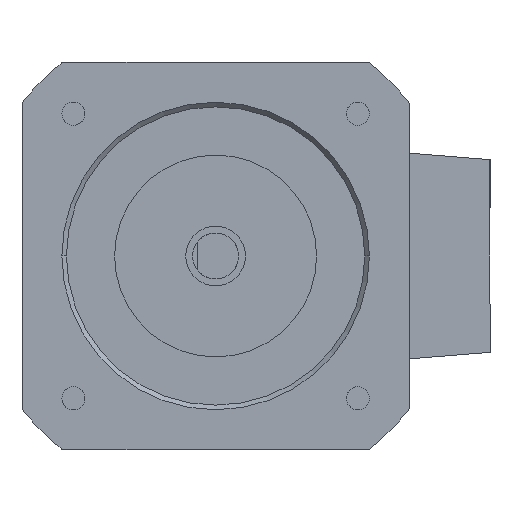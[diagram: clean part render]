
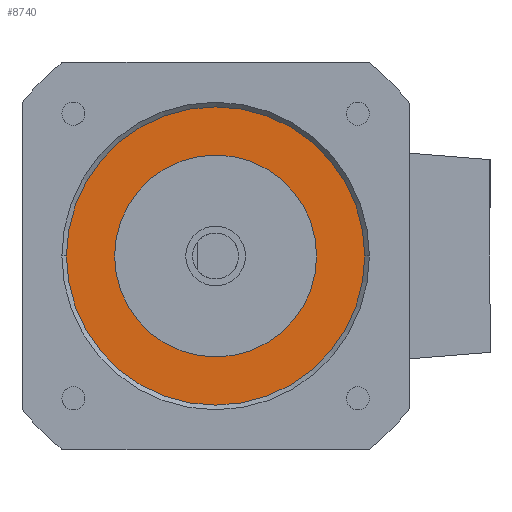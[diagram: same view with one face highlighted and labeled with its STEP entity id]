
A CAD part, front view. The second image highlights one B-rep face of the part: STEP entity #8740.
In plain terms, the highlighted planar face has unit normal (0, -1, 0).
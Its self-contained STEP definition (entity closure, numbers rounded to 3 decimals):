
#280 = EDGE_CURVE ( 'NONE', #3485, #9376, #5855, .T. ) ;
#858 = DIRECTION ( 'NONE',  ( 0., 0., -1. ) ) ;
#1253 = CARTESIAN_POINT ( 'NONE',  ( 0., 2., -11. ) ) ;
#1426 = CARTESIAN_POINT ( 'NONE',  ( 0., 2., 0. ) ) ;
#1916 = EDGE_LOOP ( 'NONE', ( #3754, #5186 ) ) ;
#2216 = CARTESIAN_POINT ( 'NONE',  ( 0., 2., 0. ) ) ;
#2993 = CIRCLE ( 'NONE', #7917, 11. ) ;
#3236 = VERTEX_POINT ( 'NONE', #10629 ) ;
#3485 = VERTEX_POINT ( 'NONE', #6726 ) ;
#3754 = ORIENTED_EDGE ( 'NONE', *, *, #280, .T. ) ;
#4136 = DIRECTION ( 'NONE',  ( 0., 0., -1. ) ) ;
#5186 = ORIENTED_EDGE ( 'NONE', *, *, #12446, .T. ) ;
#5203 = CARTESIAN_POINT ( 'NONE',  ( 0., 2., 0. ) ) ;
#5304 = DIRECTION ( 'NONE',  ( 0., 0., -1. ) ) ;
#5492 = DIRECTION ( 'NONE',  ( 0., -1., 0. ) ) ;
#5855 = CIRCLE ( 'NONE', #9875, 16.25 ) ;
#5917 = CIRCLE ( 'NONE', #9939, 11. ) ;
#6726 = CARTESIAN_POINT ( 'NONE',  ( 0., 2., -16.25 ) ) ;
#7917 = AXIS2_PLACEMENT_3D ( 'NONE', #13360, #10460, #16339 ) ;
#8656 = EDGE_LOOP ( 'NONE', ( #18965, #12888 ) ) ;
#8740 = ADVANCED_FACE ( 'NONE', ( #13219, #11972 ), #13127, .T. ) ;
#9376 = VERTEX_POINT ( 'NONE', #17178 ) ;
#9875 = AXIS2_PLACEMENT_3D ( 'NONE', #16835, #11050, #14227 ) ;
#9939 = AXIS2_PLACEMENT_3D ( 'NONE', #2216, #12650, #858 ) ;
#10460 = DIRECTION ( 'NONE',  ( 0., -1., 0. ) ) ;
#10629 = CARTESIAN_POINT ( 'NONE',  ( 0., 2., 11. ) ) ;
#11050 = DIRECTION ( 'NONE',  ( 0., -1., 0. ) ) ;
#11972 = FACE_BOUND ( 'NONE', #8656, .T. ) ;
#12433 = EDGE_CURVE ( 'NONE', #3236, #13536, #5917, .T. ) ;
#12446 = EDGE_CURVE ( 'NONE', #9376, #3485, #16115, .T. ) ;
#12650 = DIRECTION ( 'NONE',  ( 0., -1., 0. ) ) ;
#12888 = ORIENTED_EDGE ( 'NONE', *, *, #12433, .F. ) ;
#13127 = PLANE ( 'NONE',  #18448 ) ;
#13219 = FACE_OUTER_BOUND ( 'NONE', #1916, .T. ) ;
#13360 = CARTESIAN_POINT ( 'NONE',  ( 0., 2., 0. ) ) ;
#13536 = VERTEX_POINT ( 'NONE', #1253 ) ;
#14227 = DIRECTION ( 'NONE',  ( 0., 0., -1. ) ) ;
#14762 = DIRECTION ( 'NONE',  ( 0., -1., 0. ) ) ;
#16115 = CIRCLE ( 'NONE', #18877, 16.25 ) ;
#16339 = DIRECTION ( 'NONE',  ( 0., 0., -1. ) ) ;
#16835 = CARTESIAN_POINT ( 'NONE',  ( 0., 2., 0. ) ) ;
#17178 = CARTESIAN_POINT ( 'NONE',  ( 0., 2., 16.25 ) ) ;
#17620 = EDGE_CURVE ( 'NONE', #13536, #3236, #2993, .T. ) ;
#18448 = AXIS2_PLACEMENT_3D ( 'NONE', #1426, #14762, #4136 ) ;
#18877 = AXIS2_PLACEMENT_3D ( 'NONE', #5203, #5492, #5304 ) ;
#18965 = ORIENTED_EDGE ( 'NONE', *, *, #17620, .F. ) ;
